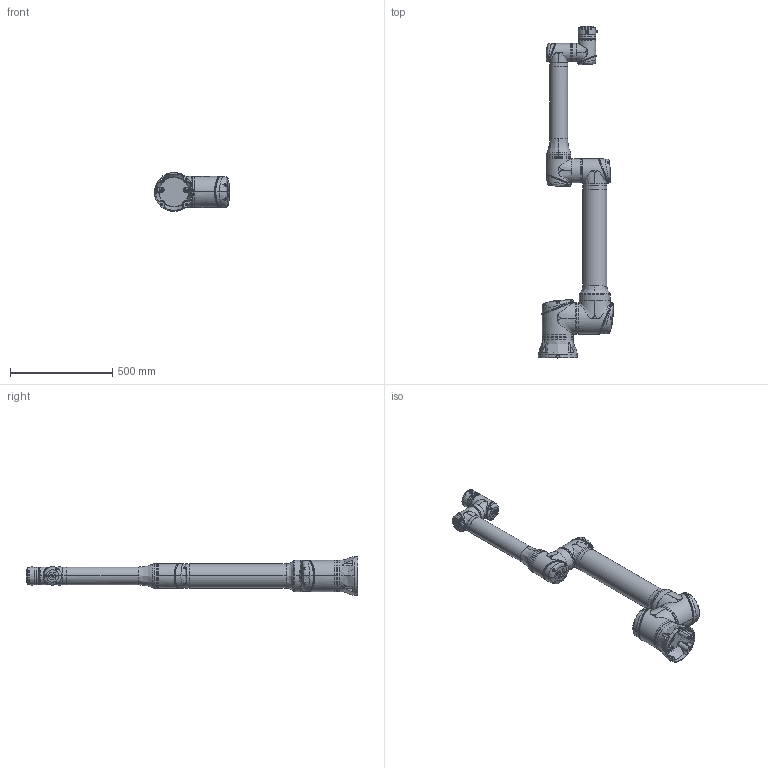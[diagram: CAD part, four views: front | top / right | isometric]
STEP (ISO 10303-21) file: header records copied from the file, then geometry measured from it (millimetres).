
FILE_DESCRIPTION (( 'STEP AP203' ), '1' );
FILE_NAME ('CS_掛极CS612AZ_V1.3.STEP', '2025-11-20T02:15:40', ( '' ), ( '' ), 'SwSTEP 2.0', 'SolidWorks 2017', '' );
FILE_SCHEMA (( 'CONFIG_CONTROL_DESIGN' ));
Length unit declared in the file: millimetre
Products named in the file (8): CS_掛极CS612AZ_V1.3; CS612AZ_Base; CS612AZ_Link3; CS612AZ_Link4-2; CS612AZ-Flange; CS612AZ_Link2; CS612AZ_Link1; CS612AZ-Link5
Assembly tree (7 placements, depth 2):
  CS_掛极CS612AZ_V1.3
    CS612AZ_Base
    CS612AZ_Link1
    CS612AZ_Link2
    CS612AZ_Link3
    CS612AZ_Link4-2
    CS612AZ-Link5
    CS612AZ-Flange
Bounding box: 366.83 x 1621.5 x 189.7 mm (x, y, z)
Volume: 22986574.9 mm3; surface area: 1452070.6 mm2
Topology: 89 solids, 110 shells, 5504 faces, 13190 edges, 7889 vertices
Faces by surface type: bspline 2279, plane 1407, cylinder 1099, cone 410, torus 190, sphere 119
Entity records: 547785 total; most frequent: CARTESIAN_POINT 439327, ORIENTED_EDGE 25778, DIRECTION 17586, EDGE_CURVE 12889, VERTEX_POINT 7866, AXIS2_PLACEMENT_3D 7311, EDGE_LOOP 5859, FACE_OUTER_BOUND 5505
